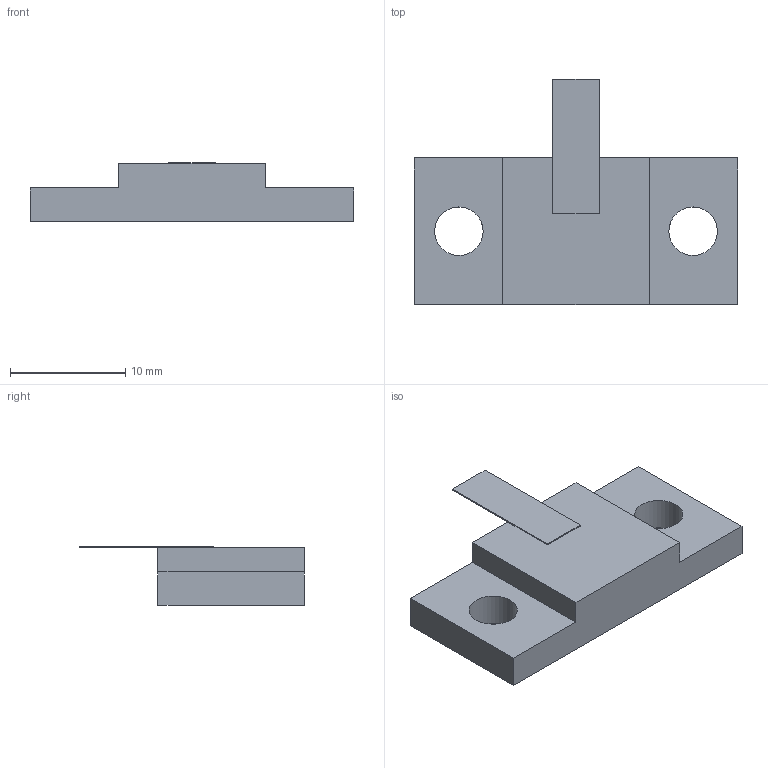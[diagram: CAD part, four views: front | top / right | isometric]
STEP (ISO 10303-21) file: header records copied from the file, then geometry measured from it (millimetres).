
FILE_DESCRIPTION(('STEP AP203'), '1');
FILE_NAME('Ð1-17-400-2.1', '', ('UNSPECIFIED'), ('UNSPECIFIED'), 'ASCON STEP Converter 1.6', 'ASCON Math Kernel', '');
FILE_SCHEMA(('CONFIG_CONTROL_DESIGN'));
Length unit declared in the file: millimetre
Bounding box: 28 x 19.5 x 5.1 mm (x, y, z)
Volume: 1294.1 mm3; surface area: 1142 mm2
Topology: 1 solids, 2 shells, 37 faces, 97 edges, 64 vertices
Faces by surface type: plane 31, cylinder 6
Full cylindrical faces by diameter (mm): 4.2 x2
Entity records: 1467 total; most frequent: CARTESIAN_POINT 197, ORIENTED_EDGE 190, DIRECTION 183, EDGE_CURVE 95, LINE 83, VECTOR 83, VERTEX_POINT 64, AXIS2_PLACEMENT_3D 50
